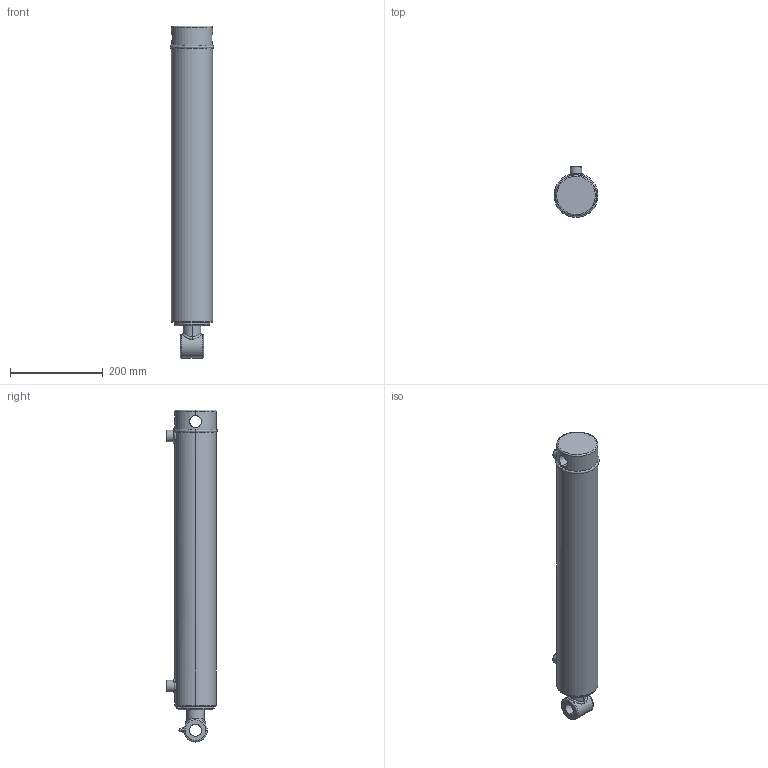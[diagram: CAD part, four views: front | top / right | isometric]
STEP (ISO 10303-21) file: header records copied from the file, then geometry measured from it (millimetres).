
FILE_DESCRIPTION (( 'STEP AP203' ), '1' );
FILE_NAME ('SB-C3001550x508 (20).STEP', '2014-11-19T21:37:57', ( '' ), ( '' ), 'SwSTEP 2.0', 'SolidWorks 2014', '' );
FILE_SCHEMA (( 'CONFIG_CONTROL_DESIGN' ));
Length unit declared in the file: millimetre
Products named in the file (7): SB-C300150x508 (20) BODY; 3 inch circlip; SPARE 20; SB-C3001550x508 (20) body; SB-C3001550x508 (20); 20 SPARE; 18 NPT GREASE NIPPLE
Assembly tree (6 placements, depth 3):
  SB-C3001550x508 (20)
    SB-C3001550x508 (20) body
      SB-C300150x508 (20) BODY
      3 inch circlip
    SPARE 20
      20 SPARE
      18 NPT GREASE NIPPLE
Bounding box: 94.9 x 109.9 x 716.4 mm (x, y, z)
Volume: 4435152.3 mm3; surface area: 325610.1 mm2
Topology: 4 solids, 4 shells, 133 faces, 306 edges, 190 vertices
Faces by surface type: cylinder 51, plane 29, cone 22, bspline 18, torus 11, sphere 2
Entity records: 10452 total; most frequent: CARTESIAN_POINT 6772, DIRECTION 638, ORIENTED_EDGE 604, EDGE_CURVE 302, AXIS2_PLACEMENT_3D 270, VERTEX_POINT 190, EDGE_LOOP 158, CIRCLE 144
